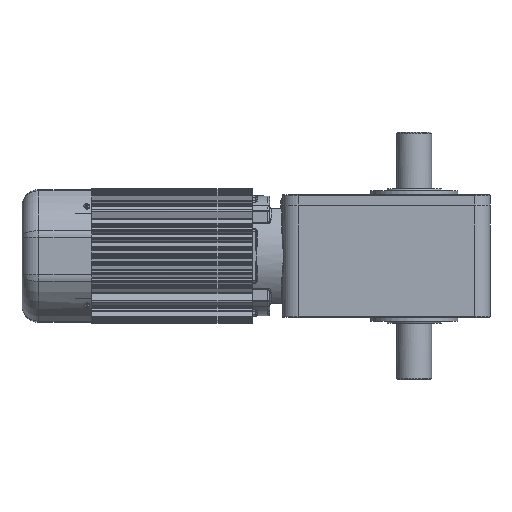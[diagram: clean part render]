
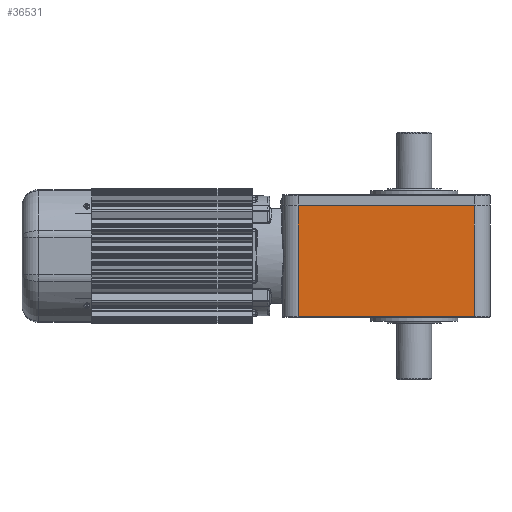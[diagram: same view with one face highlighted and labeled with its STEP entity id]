
A CAD part, front view. The second image highlights one B-rep face of the part: STEP entity #36531.
In plain terms, the highlighted planar face has unit normal (0, -1, 0).
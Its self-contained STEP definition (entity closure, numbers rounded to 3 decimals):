
#1028=PLANE('',#39484);
#2346=FACE_OUTER_BOUND('',#4494,.T.);
#4494=EDGE_LOOP('',(#27073,#27074,#27075,#27076));
#9665=LINE('',#59497,#12422);
#9666=LINE('',#59499,#12423);
#9667=LINE('',#59501,#12424);
#9668=LINE('',#59502,#12425);
#12422=VECTOR('',#46610,202.);
#12423=VECTOR('',#46611,127.);
#12424=VECTOR('',#46612,202.);
#12425=VECTOR('',#46613,127.);
#15419=VERTEX_POINT('',#59495);
#15420=VERTEX_POINT('',#59496);
#15421=VERTEX_POINT('',#59498);
#15422=VERTEX_POINT('',#59500);
#19588=EDGE_CURVE('',#15419,#15420,#9665,.T.);
#19589=EDGE_CURVE('',#15419,#15421,#9666,.T.);
#19590=EDGE_CURVE('',#15422,#15421,#9667,.T.);
#19591=EDGE_CURVE('',#15420,#15422,#9668,.T.);
#27073=ORIENTED_EDGE('',*,*,#19588,.F.);
#27074=ORIENTED_EDGE('',*,*,#19589,.T.);
#27075=ORIENTED_EDGE('',*,*,#19590,.F.);
#27076=ORIENTED_EDGE('',*,*,#19591,.F.);
#36531=ADVANCED_FACE('',(#2346),#1028,.T.);
#39484=AXIS2_PLACEMENT_3D('',#59494,#46608,#46609);
#46608=DIRECTION('center_axis',(0.,-1.,0.));
#46609=DIRECTION('ref_axis',(0.,0.,-1.));
#46610=DIRECTION('',(1.,0.,0.));
#46611=DIRECTION('',(0.,0.,-1.));
#46612=DIRECTION('',(-1.,0.,0.));
#46613=DIRECTION('',(0.,0.,-1.));
#59494=CARTESIAN_POINT('Origin',(69.,-124.,0.));
#59495=CARTESIAN_POINT('',(-133.,-124.,57.5));
#59496=CARTESIAN_POINT('',(69.,-124.,57.5));
#59497=CARTESIAN_POINT('',(-133.,-124.,57.5));
#59498=CARTESIAN_POINT('',(-133.,-124.,-69.5));
#59499=CARTESIAN_POINT('',(-133.,-124.,57.5));
#59500=CARTESIAN_POINT('',(69.,-124.,-69.5));
#59501=CARTESIAN_POINT('',(69.,-124.,-69.5));
#59502=CARTESIAN_POINT('',(69.,-124.,57.5));
